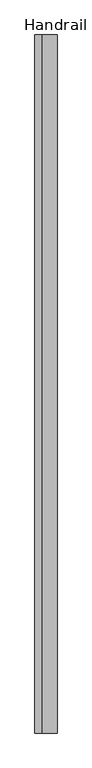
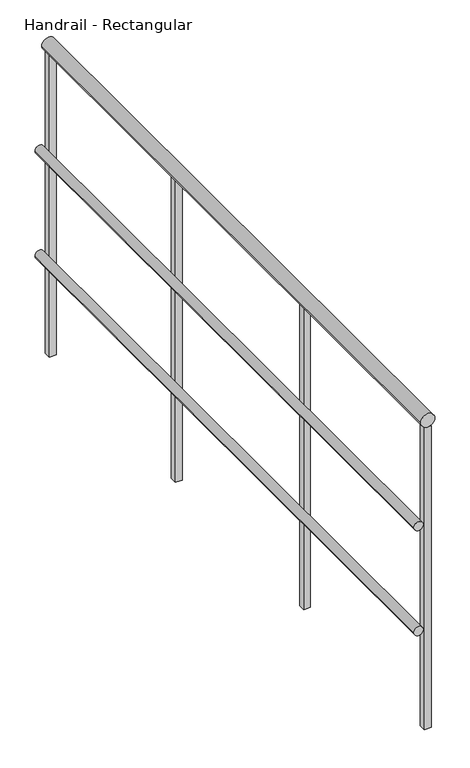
"""IFC4 building model written with IfcOpenShell, lengths in millimetres: railing geometry, Handrail - Rectangular."""

from ifc_helpers import new_model, si_unit, point, frame, frame_2d, origin, place, context, project, spatial, polyline, circle_curve, trimmed, segment, composite_curve, outline, extrude, source, transform, mapped, element, save


def handrail_rectangular_f802c7a6(model_context):
    return source(origin(), model_context, "Body", "SweptSolid", [
        extrude(outline(composite_curve([segment(trimmed(circle_curve(frame_2d((9740.9, -32192.8839563)), 12.7), [point((9740.9, -32205.5839563))], [point((9740.9, -32180.1839563))], False, "CARTESIAN"), True, "CONTINUOUS"), segment(trimmed(circle_curve(frame_2d((9740.9, -32192.8839563)), 12.7), [point((9740.9, -32180.1839563))], [point((9740.9, -32205.5839563))], False, "CARTESIAN"), True, "CONTINUOUS")], self_intersect=False)), frame((0.0, 8414.2316867, 0.0), z_axis=(0.0, 1.0, 0.0), x_axis=(0.0, 0.0, 1.0)), (0.0, 0.0, 1.0), 1803.4),
        extrude(outline(composite_curve([segment(trimmed(circle_curve(frame_2d((9436.1, -32192.8839563)), 12.7), [point((9436.1, -32205.5839563))], [point((9436.1, -32180.1839563))], False, "CARTESIAN"), True, "CONTINUOUS"), segment(trimmed(circle_curve(frame_2d((9436.1, -32192.8839563)), 12.7), [point((9436.1, -32180.1839563))], [point((9436.1, -32205.5839563))], False, "CARTESIAN"), True, "CONTINUOUS")], self_intersect=False)), frame((0.0, 8414.2316867, 0.0), z_axis=(0.0, 1.0, 0.0), x_axis=(0.0, 0.0, 1.0)), (0.0, 0.0, 1.0), 1803.4),
        extrude(outline(composite_curve([segment(trimmed(circle_curve(frame_2d((10039.35, -32167.4839563)), 19.05), [point((10039.35, -32186.5339563))], [point((10039.35, -32148.4339563))], False, "CARTESIAN"), True, "CONTINUOUS"), segment(trimmed(circle_curve(frame_2d((10039.35, -32167.4839563)), 19.05), [point((10039.35, -32148.4339563))], [point((10039.35, -32186.5339563))], False, "CARTESIAN"), True, "CONTINUOUS")], self_intersect=False)), frame((0.0, 8414.2316867, 0.0), z_axis=(0.0, 1.0, 0.0), x_axis=(0.0, 0.0, 1.0)), (0.0, 0.0, 1.0), 1803.4),
        extrude(outline(polyline([(-32157.9589563, 9007.9566867), (-32157.9589563, 8988.9066867), (-32177.0089563, 8988.9066867), (-32177.0089563, 9007.9566867), (-32157.9589563, 9007.9566867)])), frame((0.0, 0.0, 9144.0), z_axis=(0.0, 0.0, 1.0), x_axis=(1.0, 0.0, 0.0)), (0.0, 0.0, 1.0), 876.3),
        extrude(outline(polyline([(-32157.9589563, 9617.5566867), (-32157.9589563, 9598.5066867), (-32177.0089563, 9598.5066867), (-32177.0089563, 9617.5566867), (-32157.9589563, 9617.5566867)])), frame((0.0, 0.0, 9144.0), z_axis=(0.0, 0.0, 1.0), x_axis=(1.0, 0.0, 0.0)), (0.0, 0.0, 1.0), 876.3),
        extrude(outline(polyline([(-32157.9589563, 8433.2816867), (-32157.9589563, 8414.2316867), (-32177.0089563, 8414.2316867), (-32177.0089563, 8433.2816867), (-32157.9589563, 8433.2816867)])), frame((0.0, 0.0, 9144.0), z_axis=(0.0, 0.0, 1.0), x_axis=(1.0, 0.0, 0.0)), (0.0, 0.0, 1.0), 876.3),
        extrude(outline(polyline([(-32157.9589563, 10217.6316867), (-32157.9589563, 10198.5816867), (-32177.0089563, 10198.5816867), (-32177.0089563, 10217.6316867), (-32157.9589563, 10217.6316867)])), frame((0.0, 0.0, 9144.0), z_axis=(0.0, 0.0, 1.0), x_axis=(1.0, 0.0, 0.0)), (0.0, 0.0, 1.0), 876.3),
    ])


if __name__ == "__main__":
    model = new_model("IFC4")
    model_context = context("Model", 3, world=origin())
    ifc_project = project(units=[si_unit("LENGTHUNIT", "METRE", prefix="MILLI")], contexts=[model_context])
    site = spatial("IfcSite", under=ifc_project)
    building = spatial("IfcBuilding", under=site)
    placement = place(None, origin())
    handrail_rectangular_shape = handrail_rectangular_f802c7a6(model_context)
    element("IfcRailing", 1, ObjectType="Handrail - Rectangular", at=placement, inside=building, context=model_context, shape_type="MappedRepresentation", body=[
        mapped(handrail_rectangular_shape, transform((0.0, 0.0, 0.0), x_axis=(1.0, 0.0, 0.0), y_axis=(0.0, 1.0, 0.0), z_axis=(0.0, 0.0, 1.0))),
    ])
    save(model, "model.ifc")
